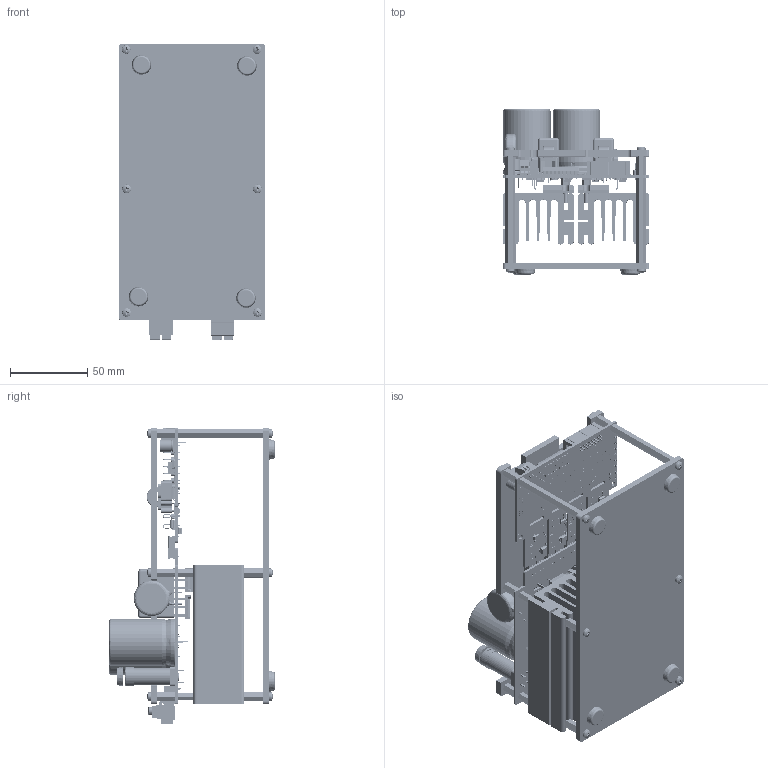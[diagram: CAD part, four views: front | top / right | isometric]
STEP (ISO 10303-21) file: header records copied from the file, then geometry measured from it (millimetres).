
FILE_DESCRIPTION (( 'STEP AP214' ), '1' );
FILE_NAME ('SPM-FB-KIT.STEP', '2020-02-13T09:00:50', ( '' ), ( '' ), 'SwSTEP 2.0', 'SolidWorks 2019', '' );
FILE_SCHEMA (( 'AUTOMOTIVE_DESIGN' ));
Length unit declared in the file: millimetre
Products named in the file (10): Bumper; GDA-3A4S1.05; pan cross head_am_B18.6.7M - M3 x 0.5 x 8 Type I Cross Recessed PHMS --8N; SPM-FB.02; pan cross head_am_B18.6.7M - M3 x 0.5 x 20 Type I Cross Recessed PHMS --20N; HEX SPACER 55MM; Acrylic-SPM-FB-GDA-TOP; HEX SPACER 12MM; Acrylic-SPM-FB-BOT; SPM-FB-KIT
Assembly tree (32 placements, depth 2):
  SPM-FB-KIT
    Acrylic-SPM-FB-BOT
    SPM-FB.02
    GDA-3A4S1.05
    Acrylic-SPM-FB-GDA-TOP
    Bumper  x4
    HEX SPACER 12MM  x10
    HEX SPACER 55MM  x2
    pan cross head_am_B18.6.7M - M3 x 0.5 x 8 Type I Cross Recessed PHMS --8N  x8
    pan cross head_am_B18.6.7M - M3 x 0.5 x 20 Type I Cross Recessed PHMS --20N  x4
Bounding box: 95 x 106.82 x 191.23 mm (x, y, z)
Volume: 121621.5 mm3; surface area: 236842.7 mm2
Topology: 30 solids, 1358 shells, 9441 faces, 37036 edges, 28348 vertices
Faces by surface type: plane 6127, cylinder 2137, bspline 947, cone 116, torus 88, sphere 26
Entity records: 537664 total; most frequent: CARTESIAN_POINT 153638, DIRECTION 54079, ORIENTED_EDGE 52864, EDGE_CURVE 36251, VERTEX_POINT 27877, LINE 24003, VECTOR 24003, AXIS2_PLACEMENT_3D 15038
